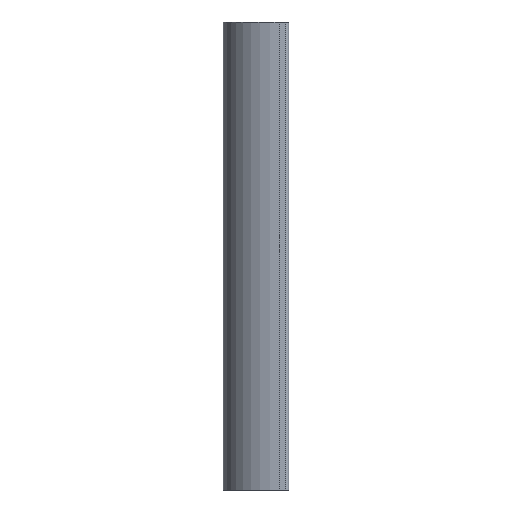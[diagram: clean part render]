
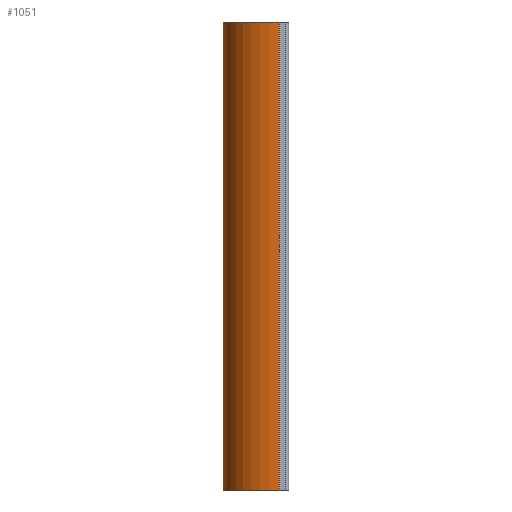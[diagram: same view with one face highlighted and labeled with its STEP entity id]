
A CAD part, left-side view. The second image highlights one B-rep face of the part: STEP entity #1051.
In plain terms, the highlighted cylindrical face has radius 60 mm (diameter 120 mm), a partial arc.
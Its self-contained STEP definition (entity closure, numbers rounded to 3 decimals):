
#123 = VERTEX_POINT ( 'NONE', #903 ) ;
#126 = ORIENTED_EDGE ( 'NONE', *, *, #1115, .F. ) ;
#174 = AXIS2_PLACEMENT_3D ( 'NONE', #733, #548, #897 ) ;
#207 = CIRCLE ( 'NONE', #454, 60. ) ;
#216 = LINE ( 'NONE', #311, #824 ) ;
#218 = CARTESIAN_POINT ( 'NONE',  ( -60., 0., -250. ) ) ;
#241 = ORIENTED_EDGE ( 'NONE', *, *, #992, .F. ) ;
#285 = AXIS2_PLACEMENT_3D ( 'NONE', #657, #939, #677 ) ;
#311 = CARTESIAN_POINT ( 'NONE',  ( -60., 0., 250. ) ) ;
#350 = DIRECTION ( 'NONE',  ( 0., 0., -1. ) ) ;
#373 = ORIENTED_EDGE ( 'NONE', *, *, #874, .T. ) ;
#422 = CIRCLE ( 'NONE', #174, 60. ) ;
#431 = VERTEX_POINT ( 'NONE', #620 ) ;
#454 = AXIS2_PLACEMENT_3D ( 'NONE', #799, #615, #709 ) ;
#548 = DIRECTION ( 'NONE',  ( 0., 0., 1. ) ) ;
#615 = DIRECTION ( 'NONE',  ( 0., 0., 1. ) ) ;
#620 = CARTESIAN_POINT ( 'NONE',  ( 0., 60., -250. ) ) ;
#657 = CARTESIAN_POINT ( 'NONE',  ( 0., 0., 250. ) ) ;
#677 = DIRECTION ( 'NONE',  ( -1., 0., 0. ) ) ;
#709 = DIRECTION ( 'NONE',  ( -1., 0., 0. ) ) ;
#733 = CARTESIAN_POINT ( 'NONE',  ( 0., 0., 250. ) ) ;
#764 = ORIENTED_EDGE ( 'NONE', *, *, #819, .T. ) ;
#771 = VERTEX_POINT ( 'NONE', #218 ) ;
#791 = VECTOR ( 'NONE', #350, 1000. ) ;
#799 = CARTESIAN_POINT ( 'NONE',  ( 0., 0., -250. ) ) ;
#819 = EDGE_CURVE ( 'NONE', #431, #771, #207, .T. ) ;
#824 = VECTOR ( 'NONE', #1117, 1000. ) ;
#859 = CYLINDRICAL_SURFACE ( 'NONE', #285, 60. ) ;
#874 = EDGE_CURVE ( 'NONE', #950, #431, #1053, .T. ) ;
#897 = DIRECTION ( 'NONE',  ( -1., 0., 0. ) ) ;
#903 = CARTESIAN_POINT ( 'NONE',  ( -60., 0., 250. ) ) ;
#924 = FACE_OUTER_BOUND ( 'NONE', #1000, .T. ) ;
#939 = DIRECTION ( 'NONE',  ( 0., 0., -1. ) ) ;
#950 = VERTEX_POINT ( 'NONE', #996 ) ;
#963 = CARTESIAN_POINT ( 'NONE',  ( 0., 60., 250. ) ) ;
#992 = EDGE_CURVE ( 'NONE', #950, #123, #422, .T. ) ;
#996 = CARTESIAN_POINT ( 'NONE',  ( 0., 60., 250. ) ) ;
#1000 = EDGE_LOOP ( 'NONE', ( #764, #126, #241, #373 ) ) ;
#1051 = ADVANCED_FACE ( 'NONE', ( #924 ), #859, .T. ) ;
#1053 = LINE ( 'NONE', #963, #791 ) ;
#1115 = EDGE_CURVE ( 'NONE', #123, #771, #216, .T. ) ;
#1117 = DIRECTION ( 'NONE',  ( 0., 0., -1. ) ) ;
